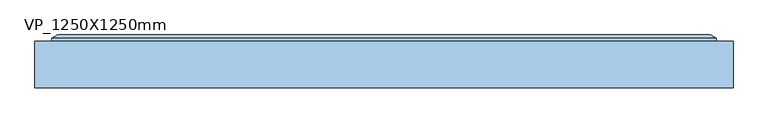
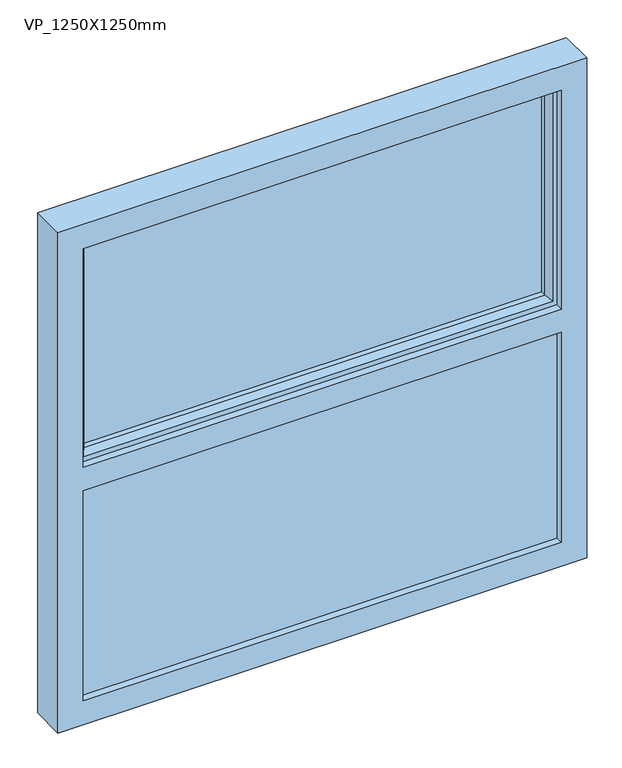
"""IFC4 building model written with IfcOpenShell, lengths in millimetres: window geometry, VENTANA_PROY_2HOJAS_HOR : VP_1250X1250mm."""

from ifc_helpers import new_model, si_unit, frame, origin, place, context, project, spatial, polyline, outline, extrude, faceted_brep, source, transform, mapped, element, save


def vp_1250x1250mm_2af825d3(model_context):
    return source(origin(), model_context, "Body", "SolidModel", [
        extrude(outline(polyline([(1455.0, 585.0), (1455.0, 565.0), (920.0, 565.0), (920.0, -565.0), (1455.0, -565.0), (1455.0, -585.0), (900.0, -585.0), (900.0, 585.0), (1455.0, 585.0)])), frame((0.0, 67.4565678, 0.0), z_axis=(0.0, 1.0, 0.0), x_axis=(0.0, 0.0, 1.0)), (0.0, 0.0, 1.0), 36.0),
        extrude(outline(polyline([(585.0, 43.4565678), (-585.0, 43.4565678), (-585.0, 67.4565678), (585.0, 67.4565678), (585.0, 43.4565678)])), frame((0.0, 0.0, 920.0), z_axis=(0.0, 0.0, 1.0), x_axis=(1.0, 0.0, 0.0)), (0.0, 0.0, 1.0), 535.0),
        faceted_brep([(-625.0, 108.4565678, 2110.0), (-625.0, 25.4565678, 2110.0), (625.0, 25.4565678, 2110.0), (625.0, 108.4565678, 2110.0), (-585.0, 43.4565678, 2070.0), (-585.0, 108.4565678, 2070.0), (585.0, 108.4565678, 2070.0), (585.0, 43.4565678, 2070.0), (-565.0, 25.4565678, 2050.0), (-565.0, 43.4565678, 2050.0), (565.0, 43.4565678, 2050.0), (565.0, 25.4565678, 2050.0), (625.0, 25.4565678, 860.0), (625.0, 108.4565678, 860.0), (585.0, 43.4565678, 1485.0), (585.0, 108.4565678, 1485.0), (585.0, 108.4565678, 900.0), (585.0, 43.4565678, 900.0), (585.0, 43.4565678, 1455.0), (585.0, 67.4565678, 1455.0), (585.0, 67.4565678, 1445.0), (585.0, 108.4565678, 1445.0), (565.0, 43.4565678, 1503.0), (565.0, 25.4565678, 1503.0), (565.0, 43.4565678, 920.0), (565.0, 25.4565678, 920.0), (565.0, 25.4565678, 1445.0), (565.0, 43.4565678, 1445.0), (-625.0, 25.4565678, 860.0), (-565.0, 25.4565678, 1503.0), (-565.0, 25.4565678, 920.0), (-565.0, 25.4565678, 1445.0), (-625.0, 108.4565678, 860.0), (-585.0, 108.4565678, 1485.0), (-585.0, 108.4565678, 1445.0), (-585.0, 108.4565678, 900.0), (-585.0, 43.4565678, 900.0), (-585.0, 43.4565678, 1485.0), (-565.0, 43.4565678, 1503.0), (-585.0, 43.4565678, 1455.0), (-565.0, 43.4565678, 1445.0), (-565.0, 43.4565678, 920.0), (-585.0, 67.4565678, 1445.0), (-585.0, 67.4565678, 1455.0)], [[[0, 1, 2, 3]], [[4, 5, 6, 7]], [[8, 9, 10, 11]], [[3, 2, 12, 13]], [[14, 7, 6, 15]], [[16, 17, 18, 19, 20, 21]], [[11, 10, 22, 23]], [[24, 25, 26, 27]], [[2, 1, 28, 12], [8, 11, 23, 29], [30, 31, 26, 25]], [[13, 12, 28, 32]], [[0, 3, 13, 32], [6, 5, 33, 15], [16, 21, 34, 35]], [[17, 16, 35, 36]], [[4, 7, 14, 37], [9, 38, 22, 10]], [[17, 36, 39, 18], [24, 27, 40, 41]], [[25, 24, 41, 30]], [[1, 0, 32, 28]], [[5, 4, 37, 33]], [[39, 36, 35, 34, 42, 43]], [[9, 8, 29, 38]], [[30, 41, 40, 31]], [[43, 19, 18, 39]], [[19, 43, 42, 20]], [[20, 42, 34, 21]], [[15, 33, 37, 14]], [[29, 23, 22, 38]], [[26, 31, 40, 27]]]),
        extrude(outline(polyline([(555.0, 72.4565678), (-555.0, 72.4565678), (-555.0, 96.4565678), (555.0, 96.4565678), (555.0, 72.4565678)])), frame((0.0, 0.0, 1515.0), z_axis=(0.0, 0.0, 1.0), x_axis=(1.0, 0.0, 0.0)), (0.0, 0.0, 1.0), 525.0),
        faceted_brep([(-595.0, 108.4565678, 2080.0), (-595.0, 114.2300705, 2080.0), (-595.0, 114.2300705, 1475.0), (-595.0, 108.4565678, 1475.0), (-585.0, 43.4565678, 2070.0), (-585.0, 108.4565678, 2070.0), (-585.0, 108.4565678, 1485.0), (-585.0, 43.4565678, 1485.0), (-545.0, 57.9494677, 2030.0), (-555.1480377, 43.4565678, 2040.1480377), (-555.1480377, 43.4565678, 1514.8519623), (-545.0, 57.9494677, 1525.0), (-545.0, 72.4565678, 2030.0), (-545.0, 72.4565678, 1525.0), (-555.0, 96.4565678, 2040.0), (-555.0, 72.4565678, 2040.0), (-555.0, 72.4565678, 1515.0), (-555.0, 96.4565678, 1515.0), (-545.0, 114.2300705, 2030.0), (-545.0, 96.4565678, 2030.0), (-545.0, 96.4565678, 1525.0), (-545.0, 114.2300705, 1525.0), (-562.4457548, 120.0035732, 2047.4457548), (-562.4457548, 120.0035732, 1507.5542452), (-584.2153903, 120.0035732, 2069.2153903), (-584.2153903, 120.0035732, 1485.7846097), (595.0, 114.2300705, 1475.0), (595.0, 108.4565678, 1475.0), (585.0, 108.4565678, 1485.0), (585.0, 43.4565678, 1485.0), (555.1480377, 43.4565678, 1514.8519623), (545.0, 57.9494677, 1525.0), (545.0, 72.4565678, 1525.0), (555.0, 72.4565678, 1515.0), (555.0, 96.4565678, 1515.0), (545.0, 96.4565678, 1525.0), (545.0, 114.2300705, 1525.0), (562.4457548, 120.0035732, 1507.5542452), (584.2153903, 120.0035732, 1485.7846097), (595.0, 114.2300705, 2080.0), (595.0, 108.4565678, 2080.0), (585.0, 108.4565678, 2070.0), (585.0, 43.4565678, 2070.0), (555.1480377, 43.4565678, 2040.1480377), (545.0, 57.9494677, 2030.0), (545.0, 72.4565678, 2030.0), (555.0, 72.4565678, 2040.0), (555.0, 96.4565678, 2040.0), (545.0, 96.4565678, 2030.0), (545.0, 114.2300705, 2030.0), (562.4457548, 120.0035732, 2047.4457548), (584.2153903, 120.0035732, 2069.2153903)], [[[0, 1, 2, 3]], [[4, 5, 6, 7]], [[8, 9, 10, 11]], [[12, 8, 11, 13]], [[14, 15, 16, 17]], [[18, 19, 20, 21]], [[22, 18, 21, 23]], [[1, 24, 25, 2]], [[3, 2, 26, 27]], [[7, 6, 28, 29]], [[11, 10, 30, 31]], [[13, 11, 31, 32]], [[17, 16, 33, 34]], [[21, 20, 35, 36]], [[23, 21, 36, 37]], [[2, 25, 38, 26]], [[27, 26, 39, 40]], [[29, 28, 41, 42]], [[31, 30, 43, 44]], [[32, 31, 44, 45]], [[34, 33, 46, 47]], [[36, 35, 48, 49]], [[37, 36, 49, 50]], [[26, 38, 51, 39]], [[40, 39, 1, 0]], [[3, 27, 40, 0], [5, 41, 28, 6]], [[42, 41, 5, 4]], [[7, 29, 42, 4], [9, 43, 30, 10]], [[44, 43, 9, 8]], [[45, 44, 8, 12]], [[15, 46, 33, 16], [13, 32, 45, 12]], [[47, 46, 15, 14]], [[17, 34, 47, 14], [19, 48, 35, 20]], [[49, 48, 19, 18]], [[50, 49, 18, 22]], [[24, 51, 38, 25], [23, 37, 50, 22]], [[39, 51, 24, 1]]]),
    ])


if __name__ == "__main__":
    model = new_model("IFC4")
    model_context = context("Model", 3, world=origin())
    ifc_project = project(units=[si_unit("LENGTHUNIT", "METRE", prefix="MILLI")], contexts=[model_context])
    site = spatial("IfcSite", under=ifc_project)
    building = spatial("IfcBuilding", under=site)
    placement = place(None, origin())
    vp_1250x1250mm_shape = vp_1250x1250mm_2af825d3(model_context)
    element("IfcWindow", 1, ObjectType="VENTANA_PROY_2HOJAS_HOR : VP_1250X1250mm", at=placement, inside=building, context=model_context, shape_type="MappedRepresentation", body=[
        mapped(vp_1250x1250mm_shape, transform((0.0, 0.0, 0.0), x_axis=(1.0, 0.0, 0.0), y_axis=(0.0, 1.0, 0.0), z_axis=(0.0, 0.0, 1.0))),
    ])
    save(model, "model.ifc")
